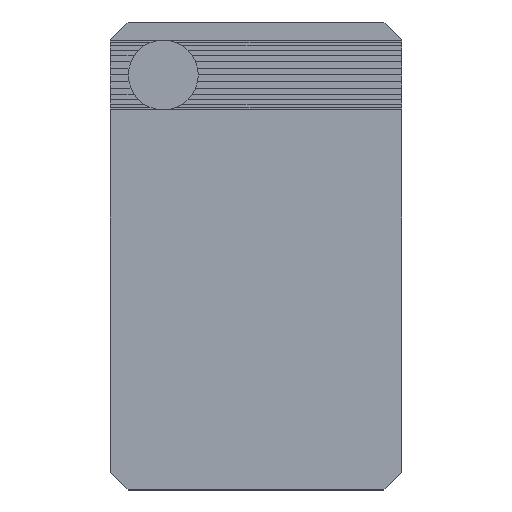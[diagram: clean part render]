
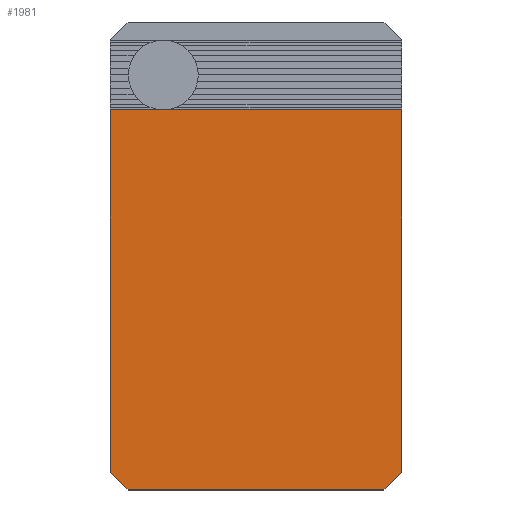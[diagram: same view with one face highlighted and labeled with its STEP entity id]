
A CAD part, top view. The second image highlights one B-rep face of the part: STEP entity #1981.
In plain terms, the highlighted planar face has unit normal (0, 0, 1).
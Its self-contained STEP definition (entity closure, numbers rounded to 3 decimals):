
#154 = CARTESIAN_POINT('',(1.65,-2.45,1.005));
#155 = VERTEX_POINT('',#154);
#156 = CARTESIAN_POINT('',(1.45,-2.65,1.005));
#157 = VERTEX_POINT('',#156);
#163 = DIRECTION('',(0.707,0.707,0.));
#164 = VECTOR('',#163,1.);
#165 = LINE('',#156,#164);
#166 = EDGE_CURVE('',#157,#155,#165,.T.);
#214 = CARTESIAN_POINT('',(1.65,1.654,1.005));
#215 = VERTEX_POINT('',#214);
#301 = DIRECTION('',(0.,1.,0.));
#302 = VECTOR('',#301,1.);
#303 = LINE('',#154,#302);
#304 = EDGE_CURVE('',#155,#215,#303,.T.);
#317 = CARTESIAN_POINT('',(-1.45,-2.65,1.005));
#318 = VERTEX_POINT('',#317);
#319 = CARTESIAN_POINT('',(-1.65,-2.45,1.005));
#320 = VERTEX_POINT('',#319);
#326 = DIRECTION('',(-0.707,0.707,0.));
#327 = VECTOR('',#326,1.);
#328 = LINE('',#317,#327);
#329 = EDGE_CURVE('',#318,#320,#328,.T.);
#345 = CARTESIAN_POINT('',(-1.65,1.654,1.005));
#346 = VERTEX_POINT('',#345);
#379 = DIRECTION('',(0.,1.,0.));
#380 = VECTOR('',#379,1.);
#381 = LINE('',#319,#380);
#382 = EDGE_CURVE('',#320,#346,#381,.T.);
#480 = DIRECTION('',(1.,0.,0.));
#481 = VECTOR('',#480,1.);
#482 = LINE('',#317,#481);
#483 = EDGE_CURVE('',#318,#157,#482,.T.);
#1240 = CARTESIAN_POINT('',(-1.05,1.654,1.005));
#1241 = VERTEX_POINT('',#1240);
#1936 = DIRECTION('',(1.,0.,0.));
#1937 = VECTOR('',#1936,1.);
#1938 = LINE('',#1240,#1937);
#1939 = EDGE_CURVE('',#1241,#215,#1938,.T.);
#1952 = DIRECTION('',(-1.,0.,0.));
#1953 = VECTOR('',#1952,1.);
#1954 = LINE('',#1240,#1953);
#1955 = EDGE_CURVE('',#1241,#346,#1954,.T.);
#1967 = ORIENTED_EDGE('',*,*,#382,.F.);
#1968 = ORIENTED_EDGE('',*,*,#329,.F.);
#1969 = ORIENTED_EDGE('',*,*,#483,.T.);
#1970 = ORIENTED_EDGE('',*,*,#166,.T.);
#1971 = ORIENTED_EDGE('',*,*,#304,.T.);
#1972 = ORIENTED_EDGE('',*,*,#1939,.F.);
#1973 = ORIENTED_EDGE('',*,*,#1955,.T.);
#1974 = CARTESIAN_POINT('',(-1.65,1.654,1.005));
#1975 = DIRECTION('',(0.,0.,1.));
#1976 = DIRECTION('',(0.,-1.,0.));
#1977 = AXIS2_PLACEMENT_3D('',#1974,#1975,#1976);
#1978 = PLANE('',#1977);
#1979 = EDGE_LOOP('',(#1967,#1968,#1969,#1970,#1971,#1972,#1973));
#1980 = FACE_OUTER_BOUND('',#1979,.T.);
#1981 = ADVANCED_FACE('',(#1980),#1978,.T.);
